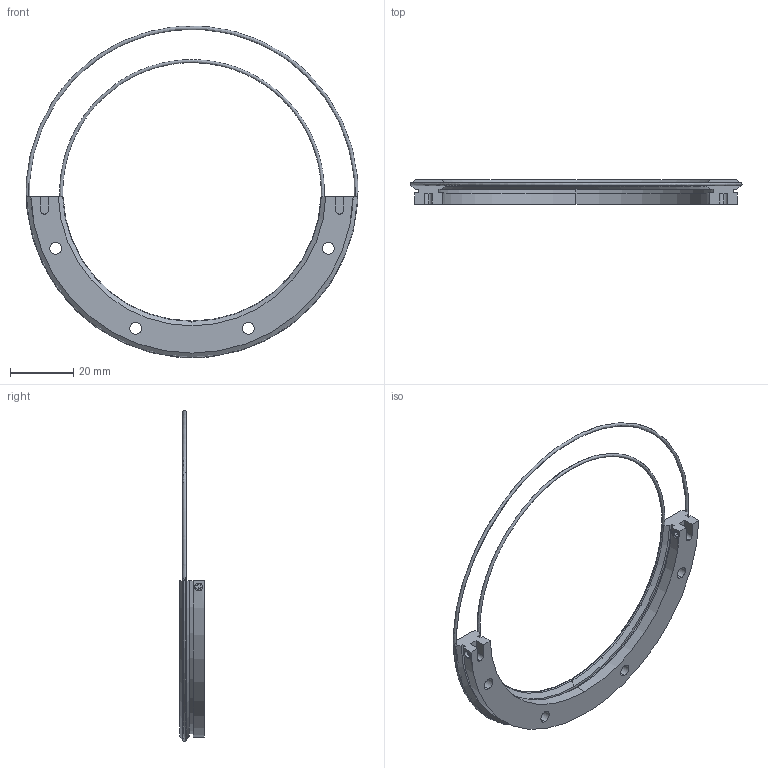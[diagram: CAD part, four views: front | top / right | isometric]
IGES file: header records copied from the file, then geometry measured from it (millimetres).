
Start section: 3D InterOp IGES (v. 2019 1.0.2), Spatial Corp. Copyright (c) 1999-2017.
Global section: file name: TR12 93 R180.igs; native system: Spatial Corp.; preprocessor: 3D InterOp GENERIC/IGES 3.0; author: Noname; organization: Noname; date: 20220628.092356; units: millimetre
Bounding box: 104.63 x 7.7 x 104.58 mm (x, y, z)
Surface area: 8905.7 mm2 (no closed solid volume)
Topology: 0 solids, 0 shells, 98 faces, 506 edges, 503 vertices
Faces by surface type: extrusion 50, revolution 48
